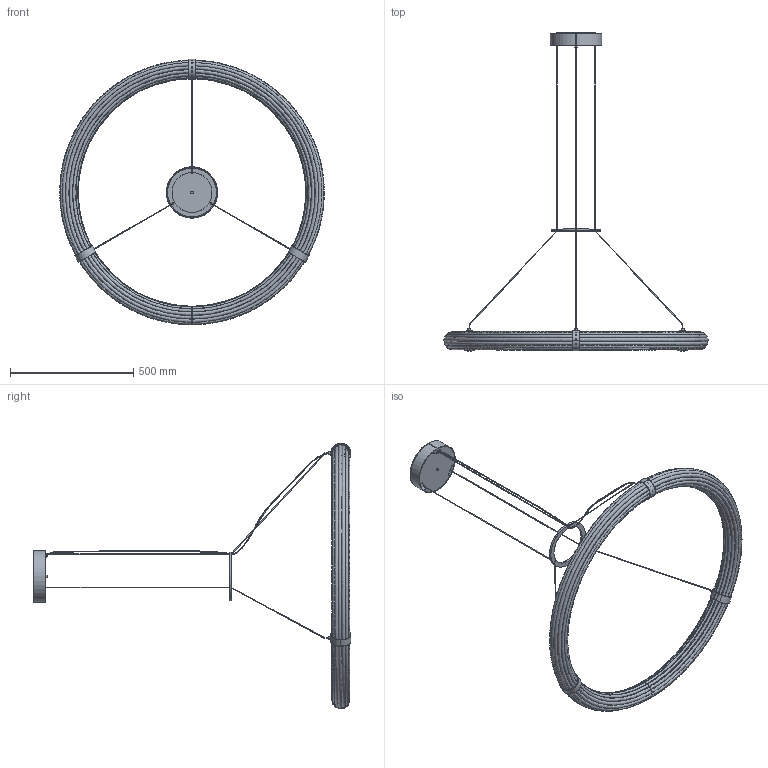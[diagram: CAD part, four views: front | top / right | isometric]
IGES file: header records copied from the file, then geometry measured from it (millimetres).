
Start section: SolidWorks IGES file using analytic representation for surfaces
Global section: file name: C:\Users\adrian\Desktop\MODELADOS USA\ELLI\ELLI_CU1311-L.IGS; native system: SolidWorks 2023; preprocessor: SolidWorks 2023; author: adrian; date: 260608.173031; units: inch
Bounding box: 1074.45 x 1291.14 x 1078.27 mm (x, y, z)
Surface area: 1442374.9 mm2 (no closed solid volume)
Topology: 0 solids, 0 shells, 194 faces, 3932 edges, 3932 vertices
Faces by surface type: bspline 106, revolution 88
